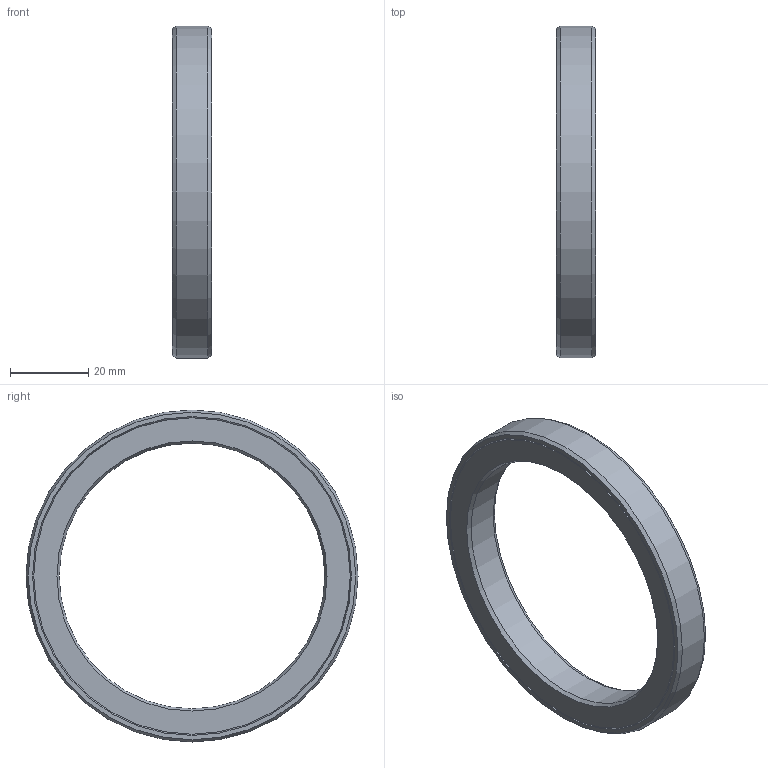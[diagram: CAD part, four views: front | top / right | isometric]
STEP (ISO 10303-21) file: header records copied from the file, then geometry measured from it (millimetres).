
FILE_DESCRIPTION(/* description */ (''),/* implementation_level */ '2;1');
FILE_NAME(/* name */ '301243 L 68x85x10.stp',/* time_stamp */ '2016-12-15T09:58:40+01:00',/* author */ (''),/* organization */ (''),/* preprocessor_version */ 'ST-DEVELOPER v15',/* originating_system */ 'SIEMENS PLM Software NX 8.5',/* authorisation */ '');
FILE_SCHEMA (('CONFIG_CONTROL_DESIGN'));
Length unit declared in the file: millimetre
Products named in the file (1): ATE0000122_01
Bounding box: 10 x 85 x 85 mm (x, y, z)
Volume: 19262.3 mm3; surface area: 14245.8 mm2
Topology: 2 solids, 2 shells, 18 faces, 34 edges, 20 vertices
Faces by surface type: cone 12, plane 4, cylinder 2
Full cylindrical faces by diameter (mm): 68 x1, 85 x1
Entity records: 454 total; most frequent: DIRECTION 74, CARTESIAN_POINT 55, AXIS2_PLACEMENT_3D 37, FACE_BOUND 36, EDGE_LOOP 36, ORIENTED_EDGE 36, ADVANCED_FACE 18, VERTEX_POINT 18
